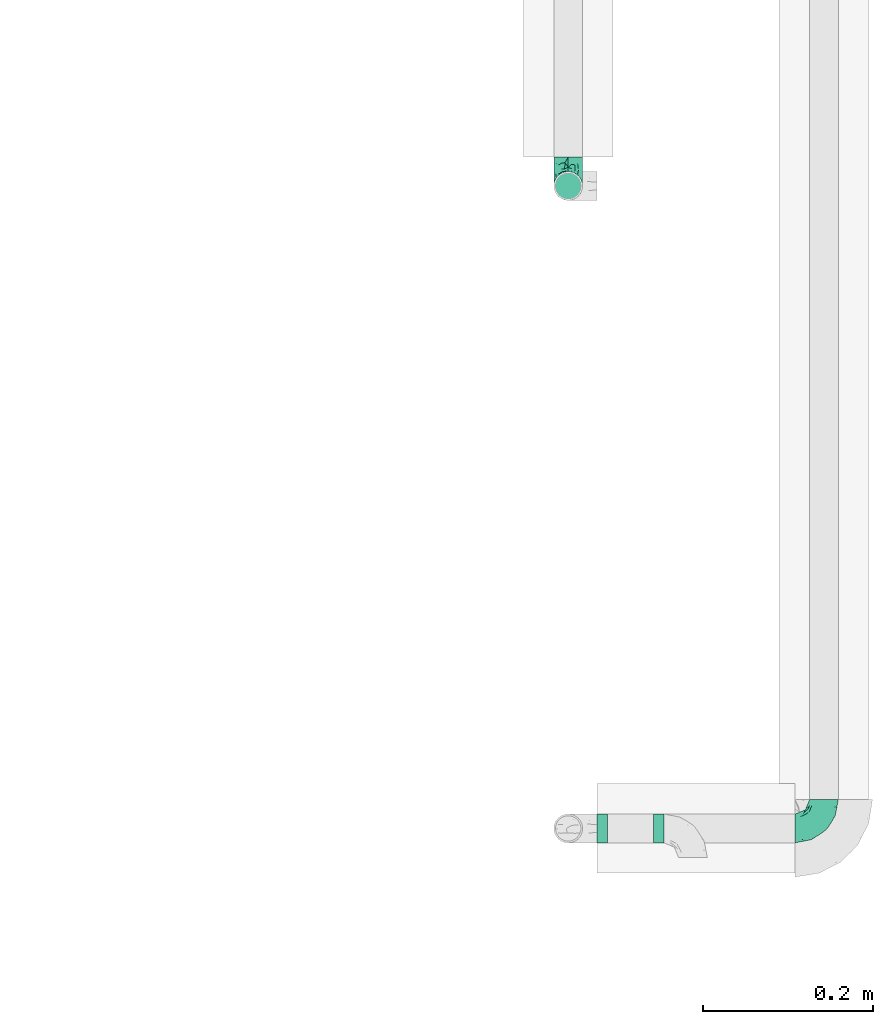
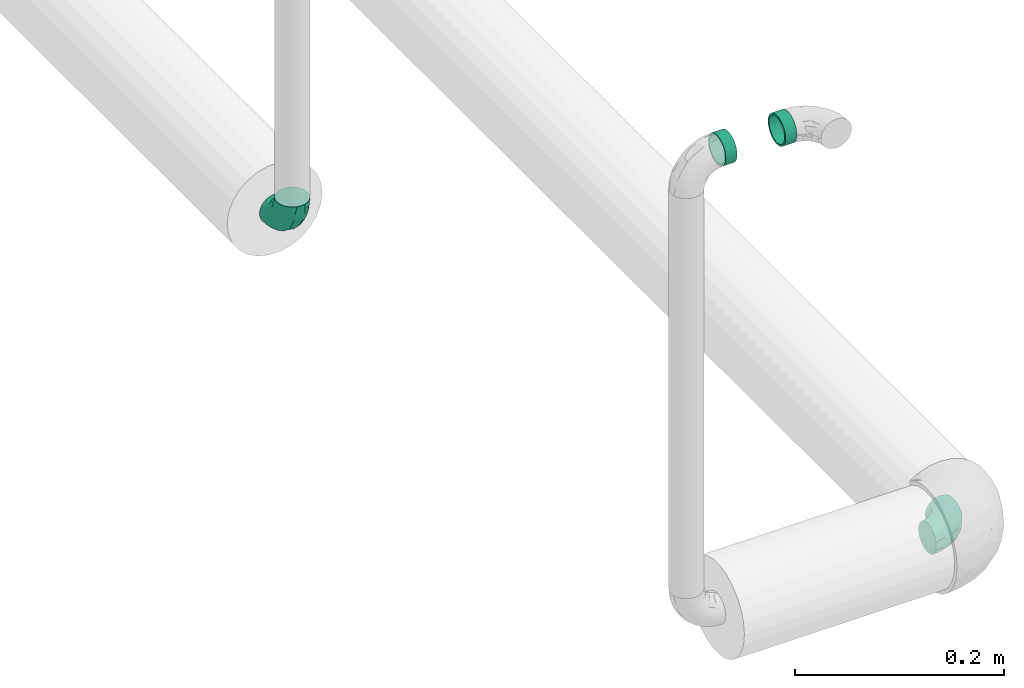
# One storey, part 11 of 17: 2 flow fittings, 2 flow segments.
"""IFC2X3 building model written with IfcOpenShell, lengths in millimetres."""

from ifc_helpers import new_model, entity, si_unit, converted_unit, derived_unit, direction, frame, origin_with_axes, origin_2d_with_axis, place, context, subcontext, project, spatial, hollow_circle, extrude, open_shell, surface_model, source, transform, mapped, type_object, element, save


model = new_model("IFC2X3")

# Units and contexts
model_context = context("Model", 3, precision=0.01, world=frame((0.0, 4.29681676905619e-09, 0.0)), true_north=direction((4.01073788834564e-13, 1.0)))
plan_context = context("Plan", 3, precision=0.01, world=frame((0.0, 4.29681676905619e-09, 0.0)), true_north=direction((4.01073788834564e-13, 1.0)))
body_context = subcontext(model_context, "Body", "Model", "MODEL_VIEW")
ifc_project = project(units=[converted_unit("PLANEANGLEUNIT", "DEGREE", entity("IfcPositiveLengthMeasure", 0.0174532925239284), si_unit("PLANEANGLEUNIT", "RADIAN"), dimensions=[0, 0, 0, 0, 0, 0, 0]), si_unit("AREAUNIT", "SQUARE_METRE"), si_unit("LENGTHUNIT", "METRE", prefix="MILLI"), si_unit("MASSUNIT", "GRAM", prefix="KILO"), si_unit("POWERUNIT", "WATT"), si_unit("PRESSUREUNIT", "PASCAL", prefix="KILO"), si_unit("FORCEUNIT", "NEWTON", prefix="KILO"), si_unit("ELECTRICVOLTAGEUNIT", "VOLT"), si_unit("ELECTRICCURRENTUNIT", "AMPERE"), si_unit("THERMODYNAMICTEMPERATUREUNIT", "DEGREE_CELSIUS"), si_unit("TIMEUNIT", "SECOND"), si_unit("VOLUMEUNIT", "CUBIC_METRE"), derived_unit("LINEARVELOCITYUNIT", [(si_unit("LENGTHUNIT", "METRE"), 1), (si_unit("TIMEUNIT", "SECOND"), -1)]), derived_unit("VOLUMETRICFLOWRATEUNIT", [(si_unit("VOLUMEUNIT", "CUBIC_METRE"), 1), (si_unit("TIMEUNIT", "SECOND"), -1)]), derived_unit("THERMALTRANSMITTANCEUNIT", [(si_unit("POWERUNIT", "WATT"), 1), (si_unit("THERMODYNAMICTEMPERATUREUNIT", "KELVIN"), -1), (si_unit("AREAUNIT", "SQUARE_METRE"), -1)]), derived_unit("SOUNDPRESSUREUNIT", [(si_unit("PRESSUREUNIT", "PASCAL"), 1)])], contexts=[model_context, plan_context])

# Site, building, storey
site_placement = place(None, frame((0.0, -4.29681676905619e-09, 0.0), z_axis=(0.0, 0.0, 1.0), x_axis=(1.0, 0.0, 0.0)))
site = spatial("IfcSite", under=ifc_project, at=site_placement, Name="ENGM", CompositionType="ELEMENT")
building_placement = place(site_placement, frame((0.0, 4.29681676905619e-09, 0.0), z_axis=(0.0, 0.0, 1.0), x_axis=(1.0, 0.0, 0.0)))
building = spatial("IfcBuilding", under=site, at=building_placement, Name="TI", CompositionType="ELEMENT")
storey_placement = place(building_placement, frame((0.0, 0.0, 207370.0), z_axis=(0.0, 0.0, 1.0), x_axis=(1.0, 0.0, 0.0)))
storey = spatial("IfcBuildingStorey", under=building, at=storey_placement, Name="Nivå E", CompositionType="ELEMENT", Elevation=207370.0)

# Flow fittings
pipe_fitting_type = type_object("IfcPipeFittingType", Name="magi_pipe_fe_elbow_short_001", PredefinedType="BEND")
shared_shape_1 = source(origin_with_axes(), body_context, "Body", "SurfaceModel", [
    surface_model("IfcShellBasedSurfaceModel", [(-33.8, 8.45, -14.63583), (-33.8, 4.37404, -16.32415), (-33.8, 11.9501, -11.9501), (-33.8, 16.32415, -4.37404), (-33.8, 14.63583, -8.45), (-33.8, -11.9501, -11.9501), (-33.8, -14.63583, -8.45), (-33.8, -8.45, -14.63583), (-33.8, 0.0, -16.9), (-33.8, -4.37404, -16.32415), (-33.8, -16.9, 0.0), (-33.8, -16.32415, 4.37404), (-33.8, -16.32415, -4.37404), (-33.8, 14.63583, 8.45), (-33.8, 16.32415, 4.37404), (-33.8, 11.9501, 11.9501), (-33.8, 4.37404, 16.32415), (-33.8, 8.45, 14.63583), (-33.8, -8.45, 14.63583), (-33.8, -14.63583, 8.45), (-33.8, -11.9501, 11.9501), (-33.8, -4.37404, 16.32415), (-33.8, 0.0, 16.9), (-33.8, 16.9, 0.0), (-11.9501, 33.8, -11.9501), (0.0, 33.8, -16.9), (-4.37404, 33.8, -16.32415), (-8.45, 33.8, -14.63583), (-14.63583, 33.8, -8.45), (-16.32415, 33.8, -4.37404), (8.45, 33.8, 14.63583), (16.32415, 33.8, -4.37404), (8.45, 33.8, -14.63583), (14.63583, 33.8, -8.45), (11.9501, 33.8, -11.9501), (4.37404, 33.8, -16.32415), (16.32415, 33.8, 4.37404), (16.9, 33.8, 0.0), (-11.9501, 33.8, 11.9501), (-16.32415, 33.8, 4.37404), (-14.63583, 33.8, 8.45), (11.9501, 33.8, 11.9501), (14.63583, 33.8, 8.45), (0.0, 33.8, 16.9), (4.37404, 33.8, 16.32415), (-16.9, 33.8, 0.0), (-24.79389, -13.12945, 9.48721), (-22.19287, -9.75018, 12.59315), (-24.09897, -14.97035, 0.0), (-14.93934, -10.76256, 8.5297), (-22.46095, -14.75051, 5.27077), (14.75051, 22.46094, 5.27077), (11.9251, 13.23888, 4.33236), (13.04069, 14.39795, 0.0), (7.71387, 13.68847, 11.55891), (9.75018, 22.19287, 12.59315), (4.10169, 13.0571, 14.04018), (-24.84007, -6.39063, 15.2048), (-25.81779, -2.23879, 16.61097), (-23.66549, 2.59054, 16.87119), (-26.50418, 14.06512, 11.08152), (-24.21253, 17.66365, 7.72657), (-29.58514, 15.86957, 7.00283), (-6.17382, -7.5455, 0.0), (-13.23888, -11.9251, 4.33236), (-14.39795, -13.04069, 0.0), (-17.81434, 18.87373, 11.97104), (-29.23923, 10.23435, 13.77053), (-1.45439, -2.85688, 7.61475), (-0.28326, 0.34872, 10.09509), (-5.74484, -4.04709, 10.4122), (-4.41137, 11.31918, 16.59407), (-8.39727, 3.10034, 15.7812), (-1.72649, 9.1306, 15.53089), (-17.39909, 24.75344, 7.64977), (-26.19233, 20.0512, 0.0), (-28.14518, 17.29657, 4.25857), (-26.05147, 6.6281, 15.96447), (-5.87354, 16.61944, 16.86968), (-12.51807, 12.51807, 16.48937), (-10.06312, 7.38516, 16.81295), (-3.01882, 3.01882, 13.81718), (-13.0571, -4.10169, 14.04018), (-16.82553, -0.15166, 16.38038), (10.76256, 14.93934, 8.5297), (13.12945, 24.79389, 9.48721), (6.39063, 24.84007, 15.2048), (-13.68847, -7.71387, 11.55891), (-10.67958, 26.17414, 14.008), (-12.78295, 18.26924, 15.06066), (-7.30894, 22.89991, 16.09489), (-13.88562, 22.45231, 12.93244), (-18.04944, 15.16501, 14.04434), (-23.11658, 20.08178, 4.02986), (-21.84989, 21.84989, 0.0), (-8.45, 33.8, 14.63583), (-18.55817, 25.48277, 3.93065), (-4.37404, 33.8, 16.32415), (-6.30846, 29.15138, 15.82987), (-13.95142, 26.94732, 11.03289), (-18.57098, 7.23906, 16.59756), (-16.58335, 4.14122, 16.89279), (-17.96666, 11.46709, 15.63151), (-9.84453, 17.54304, 16.18938), (-23.27207, 11.47201, 14.23154), (0.15166, 16.82553, 16.38038), (-8.0212, -7.54413, 7.93275), (1.00345, -2.19508, 4.57414), (5.13203, 3.01004, 5.90201), (5.24161, 1.7543, 2.53265), (8.70457, 7.04947, 3.99182), (-20.0512, 26.19233, 0.0), (-4.55488, -6.72064, 4.90681), (8.4852, 8.76699, 7.09296), (2.05031, -2.05031, 0.0), (7.5455, 6.17382, 0.0), (-26.75399, 2.1369, -16.845), (-14.61995, 24.73803, -11.27736), (-28.45274, -13.45335, -9.81895), (-26.00469, 6.63555, -15.96645), (-23.06726, 20.04573, -4.26202), (-13.80647, -4.26506, -14.17873), (-14.67501, -0.21081, -16.07388), (-6.7902, -0.2828, -13.8478), (-24.53586, 11.08096, -14.13417), (-26.72048, 14.00837, -11.05776), (10.0967, 24.44989, -12.75976), (5.83237, 21.40218, -15.03047), (6.66249, 28.54238, -15.38093), (-20.38182, 15.48705, -12.74596), (12.53268, 21.23441, -9.15363), (12.54494, 15.67504, -5.54878), (9.7522, 12.89279, -8.66343), (-15.65186, 19.64213, -13.01327), (-12.03528, 20.66498, -14.67665), (-15.61907, 15.61906, -14.83879), (-25.56551, -15.26206, 0.0), (-24.65452, -15.12934, -5.50955), (13.45335, 28.45274, -9.81895), (15.12934, 24.65452, -5.50955), (-7.35442, -8.31014, -5.65563), (-15.67504, -12.54494, -5.54878), (-24.44989, -10.0967, -12.75976), (0.16522, 0.41303, -9.71728), (-5.70658, -5.33066, -8.89288), (-5.13869, -2.37198, -11.53565), (-21.23441, -12.53268, -9.15363), (-24.89911, -2.13088, -16.591), (-28.54238, -6.66249, -15.38093), (-18.44386, -7.71663, -13.26957), (2.13088, 24.89911, -16.591), (-28.64342, 17.44413, -2.89318), (1.70017, -1.28722, -5.09504), (-16.57067, 26.81947, -7.36596), (-17.69055, 27.4263, -3.76405), (-12.89279, -9.7522, -8.66343), (-5.96611, 5.96611, -15.95814), (0.21081, 14.67501, -16.07388), (0.71146, 7.93863, -14.09382), (-20.53709, 20.09345, -8.28985), (-2.1369, 26.75399, -16.845), (-6.89872, 24.58781, -16.02578), (-10.60739, 26.53157, -13.98044), (-21.40218, -5.83237, -15.03047), (2.93192, 5.89627, -11.55917), (6.89393, 12.61842, -11.82233), (5.58056, 5.95325, -8.79455), (-3.99512, 18.61798, -16.89635), (8.31014, 7.35442, -5.65563), (-9.1383, 9.86148, -16.89041), (-9.99983, 16.02119, -16.39699), (-16.68576, 9.78031, -16.34199), (-27.01915, 16.61158, -7.12979), (15.26206, 25.56551, 0.0), (-18.61798, 3.99512, -16.89635), (-19.37495, 27.82495, 0.0), (-12.61842, -6.89393, -11.82233), (-18.84705, 19.14018, -10.96545), (-2.31621, 25.28, 16.85849), (3.84842, 5.86993, 10.70473), (3.49291, 14.42771, -14.76381), (2.23879, 25.81779, 16.61097), (14.97035, 24.09897, 0.0)], [open_shell([[[0, 1, 2]], [[3, 4, 2]], [[5, 6, 7]], [[8, 9, 7]], [[7, 6, 8]], [[10, 11, 12]], [[3, 13, 14]], [[3, 15, 13]], [[16, 17, 15]], [[16, 15, 18]], [[19, 20, 11]], [[20, 12, 11]], [[21, 22, 18]], [[20, 18, 12]], [[18, 22, 16]], [[3, 14, 23]], [[24, 25, 26]], [[24, 26, 27]], [[24, 28, 29]], [[30, 31, 24]], [[32, 33, 34]], [[32, 35, 25]], [[31, 33, 24]], [[31, 36, 37]], [[38, 24, 29]], [[39, 40, 29]], [[40, 38, 29]], [[38, 30, 24]], [[36, 41, 42]], [[36, 31, 41]], [[30, 43, 44]], [[31, 30, 41]], [[39, 29, 45]], [[20, 46, 47]], [[11, 10, 48]], [[49, 46, 50]], [[51, 52, 53]], [[46, 20, 19]], [[11, 50, 19]], [[54, 55, 56]], [[47, 18, 20]], [[47, 57, 18]], [[22, 58, 59]], [[60, 61, 62]], [[63, 64, 65]], [[55, 41, 30]], [[60, 66, 61]], [[17, 67, 15]], [[21, 58, 22]], [[68, 69, 70]], [[71, 72, 73]], [[15, 60, 13]], [[40, 39, 74]], [[75, 23, 76]], [[62, 14, 13]], [[22, 59, 16]], [[16, 77, 17]], [[78, 79, 80]], [[70, 81, 82]], [[57, 82, 83]], [[84, 85, 55]], [[86, 30, 44]], [[42, 51, 36]], [[52, 51, 84]], [[42, 85, 51]], [[87, 82, 47]], [[85, 42, 41]], [[18, 57, 21]], [[64, 50, 65]], [[88, 89, 90]], [[91, 92, 89]], [[75, 93, 94]], [[95, 38, 88]], [[96, 94, 93]], [[66, 74, 61]], [[97, 95, 98]], [[23, 14, 76]], [[88, 90, 98]], [[74, 96, 93]], [[38, 99, 88]], [[91, 88, 99]], [[11, 48, 50]], [[86, 55, 30]], [[55, 86, 56]], [[77, 16, 59]], [[100, 101, 80]], [[102, 77, 100]], [[38, 40, 99]], [[103, 89, 79]], [[90, 103, 78]], [[67, 60, 15]], [[60, 104, 92]], [[82, 57, 47]], [[65, 50, 48]], [[58, 57, 83]], [[87, 47, 49]], [[82, 81, 72]], [[105, 73, 56]], [[105, 56, 86]], [[106, 70, 87]], [[68, 70, 106]], [[64, 49, 50]], [[68, 107, 108]], [[109, 110, 108]], [[54, 84, 55]], [[50, 46, 19]], [[47, 46, 49]], [[55, 85, 41]], [[51, 85, 84]], [[100, 77, 59]], [[67, 77, 104]], [[14, 62, 76]], [[61, 74, 93]], [[45, 111, 96]], [[96, 111, 94]], [[40, 74, 99]], [[66, 99, 74]], [[91, 89, 88]], [[102, 92, 104]], [[100, 80, 79]], [[72, 80, 83]], [[78, 80, 71]], [[57, 58, 21]], [[59, 58, 83]], [[69, 81, 70]], [[100, 59, 101]], [[102, 100, 79]], [[89, 102, 79]], [[77, 102, 104]], [[89, 92, 102]], [[60, 92, 66]], [[59, 83, 101]], [[83, 80, 101]], [[82, 72, 83]], [[73, 72, 81]], [[56, 73, 81]], [[71, 73, 105]], [[78, 71, 105]], [[72, 71, 80]], [[77, 67, 17]], [[60, 67, 104]], [[88, 98, 95]], [[60, 62, 13]], [[76, 61, 93]], [[61, 76, 62]], [[76, 93, 75]], [[64, 63, 112]], [[106, 64, 112]], [[108, 110, 113]], [[114, 112, 63]], [[106, 87, 49]], [[108, 107, 109]], [[115, 53, 52]], [[70, 82, 87]], [[64, 106, 49]], [[68, 106, 112]], [[107, 68, 112]], [[112, 114, 107]], [[109, 107, 114]], [[114, 115, 109]], [[110, 115, 52]], [[115, 110, 109]], [[113, 52, 84]], [[52, 113, 110]], [[113, 84, 54]], [[108, 69, 68]], [[74, 39, 96]], [[45, 96, 39]], [[99, 66, 91]], [[91, 66, 92]], [[78, 103, 79]], [[90, 89, 103]], [[1, 116, 8]], [[28, 24, 117]], [[5, 118, 6]], [[0, 119, 1]], [[94, 120, 75]], [[121, 122, 123]], [[124, 2, 125]], [[126, 127, 128]], [[124, 125, 129]], [[130, 131, 132]], [[133, 134, 135]], [[124, 0, 2]], [[65, 136, 137]], [[130, 138, 139]], [[137, 12, 6]], [[140, 63, 141]], [[142, 5, 7]], [[143, 144, 145]], [[141, 137, 146]], [[147, 9, 8]], [[7, 148, 142]], [[146, 142, 149]], [[148, 7, 9]], [[139, 131, 130]], [[35, 150, 25]], [[23, 75, 151]], [[144, 152, 140]], [[153, 154, 29]], [[141, 155, 140]], [[156, 157, 158]], [[29, 28, 153]], [[117, 159, 153]], [[32, 34, 126]], [[25, 160, 26]], [[26, 160, 161]], [[138, 34, 33]], [[24, 27, 162]], [[120, 154, 159]], [[150, 35, 128]], [[148, 147, 163]], [[119, 0, 124]], [[164, 165, 166]], [[167, 150, 157]], [[26, 161, 27]], [[128, 35, 32]], [[138, 126, 34]], [[163, 147, 122]], [[132, 131, 168]], [[129, 133, 135]], [[2, 4, 125]], [[165, 127, 126]], [[33, 31, 139]], [[167, 169, 170]], [[171, 119, 124]], [[151, 172, 3]], [[131, 53, 115]], [[162, 27, 161]], [[170, 161, 167]], [[133, 162, 134]], [[118, 137, 6]], [[136, 10, 12]], [[31, 37, 173]], [[165, 126, 130]], [[157, 150, 127]], [[160, 150, 167]], [[157, 156, 169]], [[163, 121, 149]], [[118, 142, 146]], [[116, 147, 8]], [[174, 169, 122]], [[174, 122, 147]], [[122, 156, 123]], [[155, 141, 146]], [[136, 12, 137]], [[31, 173, 139]], [[53, 139, 173]], [[172, 125, 4]], [[124, 129, 135]], [[171, 124, 135]], [[116, 119, 174]], [[117, 153, 28]], [[154, 94, 175]], [[161, 170, 134]], [[117, 24, 162]], [[154, 45, 29]], [[75, 120, 151]], [[120, 159, 172]], [[154, 120, 94]], [[132, 166, 165]], [[123, 156, 158]], [[143, 166, 152]], [[144, 140, 155]], [[123, 158, 164]], [[123, 176, 121]], [[125, 172, 159]], [[4, 3, 172]], [[152, 63, 140]], [[65, 137, 141]], [[139, 53, 131]], [[131, 115, 168]], [[119, 116, 1]], [[147, 116, 174]], [[150, 160, 25]], [[161, 160, 167]], [[167, 157, 169]], [[171, 135, 170]], [[122, 169, 156]], [[171, 169, 174]], [[169, 171, 170]], [[119, 171, 174]], [[146, 176, 155]], [[123, 145, 176]], [[176, 144, 155]], [[152, 144, 143]], [[166, 132, 168]], [[165, 130, 132]], [[152, 166, 168]], [[166, 143, 164]], [[164, 143, 145]], [[158, 165, 164]], [[159, 177, 125]], [[177, 117, 133]], [[176, 145, 144]], [[164, 145, 123]], [[177, 133, 129]], [[162, 133, 117]], [[161, 134, 162]], [[170, 135, 134]], [[125, 177, 129]], [[117, 177, 159]], [[154, 153, 159]], [[45, 154, 175]], [[172, 151, 120]], [[23, 151, 3]], [[126, 128, 32]], [[150, 128, 127]], [[139, 138, 33]], [[126, 138, 130]], [[147, 148, 9]], [[142, 148, 163]], [[142, 118, 5]], [[137, 118, 146]], [[152, 115, 114]], [[65, 141, 63]], [[115, 152, 168]], [[152, 114, 63]], [[149, 121, 176]], [[122, 121, 163]], [[146, 149, 176]], [[163, 149, 142]], [[90, 78, 178]], [[56, 81, 179]], [[105, 178, 78]], [[158, 157, 180]], [[8, 6, 1]], [[97, 43, 95]], [[97, 98, 178]], [[178, 43, 97]], [[179, 108, 113]], [[178, 98, 90]], [[56, 179, 54]], [[113, 54, 179]], [[69, 108, 179]], [[81, 69, 179]], [[180, 165, 158]], [[157, 127, 180]], [[165, 180, 127]], [[30, 38, 95]], [[44, 43, 181]], [[6, 2, 1]], [[6, 18, 2]], [[6, 12, 18]], [[2, 18, 3]], [[15, 3, 18]], [[181, 178, 105]], [[181, 86, 44]], [[178, 181, 43]], [[86, 181, 105]], [[51, 53, 182]], [[182, 36, 51]], [[37, 36, 182]], [[25, 24, 32]], [[24, 33, 32]], [[95, 43, 30]]])]),
])
flow_fitting_1_placement = place(storey_placement, frame((598969.96633, 570723.24678, 2946.92527000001), z_axis=(0.0, 1.7999999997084e-05, 0.999999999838), x_axis=(1.0, 0.0, 0.0)))
element("IfcFlowFitting", 1, at=flow_fitting_1_placement, inside=storey, type_object=pipe_fitting_type, Name="magi_pipe_fe_elbow_short_001", context=body_context, shape_type="MappedRepresentation", body=[
    mapped(shared_shape_1, transform((0.0, 0.0, 0.0), scale=1.0)),
])
shared_shape_2 = source(origin_with_axes(), body_context, "Body", "SurfaceModel", [
    surface_model("IfcShellBasedSurfaceModel", [(-33.79946, 4.37404, -16.32415), (-33.79946, 0.0, -16.9), (-33.79946, 11.9501, -11.9501), (-33.79946, 8.45, -14.63583), (-33.79946, 16.32415, -4.37404), (-33.79946, 14.63583, -8.45), (-33.79946, -14.63583, -8.45), (-33.79946, -16.32415, -4.37404), (-33.79946, -8.45, 14.63583), (-33.79946, -11.9501, -11.9501), (-33.79946, -8.45, -14.63583), (-33.79946, -4.37404, -16.32415), (-33.79946, -16.9, 0.0), (-33.79946, -16.32415, 4.37404), (-33.79946, 11.9501, 11.9501), (-33.79946, 16.32415, 4.37404), (-33.79946, 14.63583, 8.45), (-33.79946, 4.37404, 16.32415), (-33.79946, 8.45, 14.63583), (-33.79946, -14.63583, 8.45), (-33.79946, -11.9501, 11.9501), (-33.79946, -4.37404, 16.32415), (-33.79946, 0.0, 16.9), (-33.79946, 16.9, 0.0), (0.00054, 33.79946, -16.9), (-4.3735, 33.79953, -16.32415), (-8.44946, 33.79959, -14.63583), (14.63637, 33.79922, -8.45), (-14.63529, 33.79969, -8.45), (-11.94956, 33.79965, -11.9501), (-14.63529, 33.79969, 8.45), (8.45054, 33.79932, -14.63583), (11.95065, 33.79927, -11.9501), (4.37458, 33.79939, -16.32415), (11.95065, 33.79927, 11.9501), (16.32469, 33.7992, -4.37404), (16.32469, 33.7992, 4.37404), (16.90054, 33.79919, 0.0), (-16.89946, 33.79973, 0.0), (-16.3236, 33.79972, -4.37404), (-16.3236, 33.79972, 4.37404), (8.45054, 33.79932, 14.63583), (-8.44946, 33.79959, 14.63583), (-11.94956, 33.79965, 11.9501), (-4.3735, 33.79953, 16.32415), (14.63637, 33.79922, 8.45), (0.00054, 33.79946, 16.9), (4.37458, 33.79939, 16.32415), (-24.79332, -13.12945, 9.48721), (-22.19231, -9.75017, 12.59315), (-24.09853, -14.97039, 0.0), (-14.93875, -10.76253, 8.52971), (-22.46038, -14.7505, 5.27078), (14.75086, 22.46015, 5.27078), (11.92529, 13.23809, 4.33235), (13.041, 14.39739, 0.0), (7.71408, 13.68782, 11.55892), (9.75053, 22.19215, 12.59315), (4.10197, 13.05667, 14.0402), (-24.83954, -6.39062, 15.20481), (-25.81734, -2.23879, 16.61097), (-23.66501, 2.59054, 16.87119), (-26.50367, 14.06512, 11.08151), (-24.21208, 17.66361, 7.72654), (-29.58466, 15.86957, 7.00282), (-6.17351, -7.54569, 0.0), (-13.23828, -11.92507, 4.33235), (-14.3976, -13.04077, 0.0), (-17.81402, 18.87353, 11.97101), (-6.308, 29.15102, 15.82986), (-2.31581, 25.27955, 16.85849), (-29.23878, 10.23435, 13.77051), (-1.4539, -2.8568, 7.61492), (-0.28309, 0.3485, 10.09524), (-5.74452, -4.04716, 10.41229), (-4.41109, 11.31882, 16.59407), (-8.3969, 3.10031, 15.78123), (-1.72612, 9.13038, 15.5309), (-17.39865, 24.75328, 7.64975), (-26.19177, 20.05117, 0.0), (-28.14467, 17.29656, 4.25858), (-26.05095, 6.62811, 15.96447), (-5.87326, 16.6192, 16.86967), (-12.51774, 12.51794, 16.48935), (-10.06287, 7.38503, 16.81296), (-3.01857, 3.01862, 13.81723), (-13.05674, -4.10176, 14.0402), (-16.82516, -0.1517, 16.38039), (10.76277, 14.93858, 8.52971), (13.12984, 24.7931, 9.48721), (6.39102, 24.83943, 15.20481), (2.2392, 25.81731, 16.61097), (-13.68795, -7.71386, 11.55892), (14.97077, 24.09829, 0.0), (-7.30855, 22.89962, 16.09488), (-10.67916, 26.17381, 14.00799), (-12.78253, 18.26905, 15.06066), (-13.88525, 22.45203, 12.93243), (-18.04902, 15.1649, 14.04434), (-23.1161, 20.08173, 4.02985), (-21.84945, 21.8498, 0.0), (-18.55768, 25.48269, 3.93063), (-13.95099, 26.94701, 11.03288), (-18.57057, 7.239, 16.59756), (-16.58299, 4.1412, 16.89279), (-17.96634, 11.46697, 15.6315), (-9.84416, 17.54283, 16.18937), (0.15197, 16.82515, 16.38039), (-23.27168, 11.47197, 14.23152), (3.84871, 5.86948, 10.70464), (-8.02067, -7.54409, 7.93282), (1.00374, -2.19518, 4.5745), (5.13257, 3.00989, 5.90176), (5.24124, 1.7532, 2.53273), (8.70481, 7.04871, 3.99119), (-20.05075, 26.19209, 0.0), (8.48605, 8.76689, 7.09228), (-4.55425, -6.72053, 4.90695), (2.05057, -2.0506, 0.0), (7.54578, 6.17339, 0.0), (-26.75354, 2.1369, -16.84499), (-14.61951, 24.73785, -11.27734), (-28.45223, -13.45334, -9.81896), (-26.00418, 6.63555, -15.96645), (-23.06679, 20.04568, -4.26201), (-13.80618, -4.26522, -14.17871), (-14.67463, -0.21089, -16.07388), (-6.79008, -0.28298, -13.84788), (-24.53543, 11.08094, -14.13415), (-26.71996, 14.00837, -11.05775), (10.09709, 24.44921, -12.75976), (5.83271, 21.4016, -15.03047), (6.66295, 28.54176, -15.38093), (-20.38141, 15.48695, -12.74596), (12.53303, 21.23372, -9.15365), (12.54518, 15.67429, -5.5488), (9.75234, 12.89203, -8.6635), (-15.65146, 19.642, -13.01325), (-12.03495, 20.66475, -14.67661), (-15.6187, 15.61895, -14.83877), (-25.56497, -15.26207, 0.0), (-24.654, -15.12934, -5.50956), (13.4538, 28.45202, -9.81896), (15.12973, 24.65375, -5.50956), (-7.35384, -8.31012, -5.65562), (-15.6745, -12.54493, -5.5488), (-24.44937, -10.0967, -12.75976), (0.16527, 0.41258, -9.71733), (-5.70616, -5.33082, -8.89278), (-5.13887, -2.37249, -11.53571), (-21.23393, -12.53269, -9.15365), (0.71166, 7.93824, -14.09385), (0.21113, 14.67462, -16.07388), (3.49317, 14.42724, -14.76382), (-24.89859, -2.13088, -16.591), (-28.54187, -6.66249, -15.38093), (-18.44338, -7.71671, -13.26953), (2.13127, 24.89855, -16.591), (-28.64292, 17.44411, -2.89316), (1.70006, -1.28787, -5.09508), (-16.5702, 26.81933, -7.36593), (-17.6901, 27.42606, -3.76404), (-12.89219, -9.75213, -8.6635), (-5.96583, 5.96593, -15.95816), (-20.53659, 20.09343, -8.28982), (-2.13647, 26.75357, -16.84499), (-6.89832, 24.58744, -16.02578), (-10.60697, 26.53122, -13.98043), (-21.40169, -5.83237, -15.03047), (2.93217, 5.89583, -11.55914), (6.89417, 12.61788, -11.82236), (5.58065, 5.95257, -8.79452), (-3.99478, 18.61765, -16.89635), (8.31024, 7.35371, -5.65562), (-9.138, 9.86127, -16.89041), (-9.99954, 16.02087, -16.39699), (-16.6856, 9.78017, -16.34196), (-27.01865, 16.61156, -7.1298), (15.26249, 25.56472, 0.0), (-18.61759, 3.99508, -16.89635), (-19.37445, 27.82476, 0.0), (-12.61799, -6.89396, -11.82236), (-18.84667, 19.14003, -10.96544)], [open_shell([[[0, 1, 2]], [[3, 0, 2]], [[4, 5, 2]], [[6, 2, 1]], [[2, 7, 8]], [[9, 6, 10]], [[1, 11, 10]], [[1, 10, 6]], [[6, 7, 2]], [[12, 13, 7]], [[4, 2, 14]], [[14, 15, 4]], [[16, 15, 14]], [[17, 18, 14]], [[2, 8, 14]], [[17, 14, 8]], [[19, 20, 13]], [[13, 20, 7]], [[21, 22, 8]], [[20, 8, 7]], [[8, 22, 17]], [[23, 4, 15]], [[24, 25, 26]], [[27, 24, 26]], [[27, 26, 28]], [[28, 26, 29]], [[28, 30, 27]], [[31, 27, 32]], [[31, 33, 24]], [[27, 31, 24]], [[27, 34, 35]], [[35, 36, 37]], [[38, 28, 39]], [[38, 40, 30]], [[27, 30, 41]], [[30, 42, 41]], [[42, 30, 43]], [[44, 41, 42]], [[35, 45, 36]], [[34, 45, 35]], [[41, 46, 47]], [[27, 41, 34]], [[44, 46, 41]], [[38, 30, 28]], [[20, 48, 49]], [[13, 12, 50]], [[51, 48, 52]], [[53, 54, 55]], [[48, 20, 19]], [[13, 52, 19]], [[56, 57, 58]], [[49, 8, 20]], [[49, 59, 8]], [[22, 60, 61]], [[62, 63, 64]], [[65, 66, 67]], [[57, 34, 41]], [[62, 68, 63]], [[44, 69, 70]], [[18, 71, 14]], [[21, 60, 22]], [[72, 73, 74]], [[75, 76, 77]], [[14, 62, 16]], [[30, 40, 78]], [[79, 23, 80]], [[64, 15, 16]], [[22, 61, 17]], [[17, 81, 18]], [[82, 83, 84]], [[74, 85, 86]], [[59, 86, 87]], [[88, 89, 57]], [[90, 41, 47]], [[45, 53, 36]], [[47, 46, 91]], [[54, 53, 88]], [[45, 89, 53]], [[92, 86, 49]], [[89, 45, 34]], [[8, 59, 21]], [[53, 55, 93]], [[93, 36, 53]], [[66, 52, 67]], [[94, 82, 70]], [[95, 96, 94]], [[97, 98, 96]], [[79, 99, 100]], [[42, 43, 95]], [[101, 100, 99]], [[68, 78, 63]], [[44, 42, 69]], [[23, 15, 80]], [[95, 94, 69]], [[78, 101, 99]], [[43, 102, 95]], [[70, 46, 44]], [[97, 95, 102]], [[13, 50, 52]], [[90, 57, 41]], [[57, 90, 58]], [[81, 17, 61]], [[103, 104, 84]], [[105, 81, 103]], [[43, 30, 102]], [[106, 96, 83]], [[94, 106, 82]], [[91, 70, 107]], [[71, 62, 14]], [[62, 108, 98]], [[86, 59, 49]], [[67, 52, 50]], [[60, 59, 87]], [[92, 49, 51]], [[86, 85, 76]], [[91, 90, 47]], [[37, 36, 93]], [[107, 77, 58]], [[107, 58, 90]], [[58, 85, 109]], [[110, 74, 92]], [[72, 74, 110]], [[66, 51, 52]], [[72, 111, 112]], [[113, 114, 112]], [[56, 88, 57]], [[52, 48, 19]], [[49, 48, 51]], [[57, 89, 34]], [[53, 89, 88]], [[103, 81, 61]], [[71, 81, 108]], [[15, 64, 80]], [[63, 78, 99]], [[38, 115, 101]], [[101, 115, 100]], [[30, 78, 102]], [[68, 102, 78]], [[97, 96, 95]], [[105, 98, 108]], [[103, 84, 83]], [[107, 70, 82]], [[76, 84, 87]], [[82, 84, 75]], [[70, 91, 46]], [[90, 91, 107]], [[59, 60, 21]], [[61, 60, 87]], [[73, 85, 74]], [[109, 112, 116]], [[103, 61, 104]], [[105, 103, 83]], [[96, 105, 83]], [[81, 105, 108]], [[96, 98, 105]], [[62, 98, 68]], [[61, 87, 104]], [[87, 84, 104]], [[86, 76, 87]], [[77, 76, 85]], [[58, 77, 85]], [[75, 77, 107]], [[82, 75, 107]], [[76, 75, 84]], [[81, 71, 18]], [[62, 71, 108]], [[95, 69, 42]], [[70, 69, 94]], [[62, 64, 16]], [[80, 63, 99]], [[63, 80, 64]], [[80, 99, 79]], [[66, 65, 117]], [[110, 66, 117]], [[112, 114, 116]], [[118, 117, 65]], [[110, 92, 51]], [[112, 111, 113]], [[119, 55, 54]], [[74, 86, 92]], [[58, 109, 56]], [[116, 56, 109]], [[66, 110, 51]], [[72, 110, 117]], [[111, 72, 117]], [[73, 112, 109]], [[117, 118, 111]], [[113, 111, 118]], [[118, 119, 113]], [[114, 119, 54]], [[119, 114, 113]], [[116, 54, 88]], [[54, 116, 114]], [[116, 88, 56]], [[112, 73, 72]], [[85, 73, 109]], [[78, 40, 101]], [[38, 101, 40]], [[102, 68, 97]], [[97, 68, 98]], [[82, 106, 83]], [[94, 96, 106]], [[0, 120, 1]], [[28, 29, 121]], [[9, 122, 6]], [[3, 123, 0]], [[100, 124, 79]], [[125, 126, 127]], [[128, 2, 129]], [[130, 131, 132]], [[128, 129, 133]], [[134, 135, 136]], [[137, 138, 139]], [[128, 3, 2]], [[67, 140, 141]], [[134, 142, 143]], [[141, 7, 6]], [[144, 65, 145]], [[146, 9, 10]], [[147, 148, 149]], [[145, 141, 150]], [[151, 152, 153]], [[154, 11, 1]], [[10, 155, 146]], [[150, 146, 156]], [[155, 10, 11]], [[143, 135, 134]], [[33, 157, 24]], [[23, 79, 158]], [[148, 159, 144]], [[160, 161, 39]], [[145, 162, 144]], [[163, 152, 151]], [[39, 28, 160]], [[121, 164, 160]], [[31, 32, 130]], [[24, 165, 25]], [[25, 165, 166]], [[142, 32, 27]], [[29, 26, 167]], [[124, 161, 164]], [[157, 33, 132]], [[155, 154, 168]], [[123, 3, 128]], [[169, 170, 171]], [[172, 157, 152]], [[25, 166, 26]], [[132, 33, 31]], [[142, 130, 32]], [[168, 154, 126]], [[136, 135, 173]], [[133, 137, 139]], [[2, 5, 129]], [[170, 131, 130]], [[27, 35, 143]], [[172, 174, 175]], [[176, 123, 128]], [[158, 177, 4]], [[135, 55, 119]], [[167, 26, 166]], [[175, 166, 172]], [[137, 167, 138]], [[122, 141, 6]], [[140, 12, 7]], [[35, 37, 178]], [[170, 130, 134]], [[152, 157, 131]], [[165, 157, 172]], [[153, 170, 151]], [[152, 163, 174]], [[168, 125, 156]], [[122, 146, 150]], [[120, 154, 1]], [[179, 174, 126]], [[179, 126, 154]], [[126, 163, 127]], [[162, 145, 150]], [[140, 7, 141]], [[35, 178, 143]], [[55, 143, 178]], [[177, 129, 5]], [[128, 133, 139]], [[176, 128, 139]], [[120, 123, 179]], [[121, 160, 28]], [[161, 100, 180]], [[166, 175, 138]], [[121, 29, 167]], [[161, 38, 39]], [[79, 124, 158]], [[124, 164, 177]], [[161, 124, 100]], [[136, 171, 170]], [[127, 163, 151]], [[147, 171, 159]], [[148, 144, 162]], [[127, 151, 169]], [[127, 181, 125]], [[129, 177, 164]], [[5, 4, 177]], [[159, 65, 144]], [[67, 141, 145]], [[143, 55, 135]], [[135, 119, 173]], [[123, 120, 0]], [[154, 120, 179]], [[157, 165, 24]], [[166, 165, 172]], [[172, 152, 174]], [[176, 139, 175]], [[126, 174, 163]], [[176, 174, 179]], [[174, 176, 175]], [[123, 176, 179]], [[150, 181, 162]], [[127, 149, 181]], [[181, 148, 162]], [[159, 148, 147]], [[171, 136, 173]], [[170, 134, 136]], [[159, 171, 173]], [[171, 147, 169]], [[169, 147, 149]], [[151, 170, 169]], [[164, 182, 129]], [[182, 121, 137]], [[181, 149, 148]], [[169, 149, 127]], [[182, 137, 133]], [[167, 137, 121]], [[166, 138, 167]], [[175, 139, 138]], [[129, 182, 133]], [[121, 182, 164]], [[161, 160, 164]], [[38, 161, 180]], [[177, 158, 124]], [[23, 158, 4]], [[130, 132, 31]], [[157, 132, 131]], [[143, 142, 27]], [[130, 142, 134]], [[154, 155, 11]], [[146, 155, 168]], [[146, 122, 9]], [[141, 122, 150]], [[152, 131, 153]], [[159, 119, 118]], [[67, 145, 65]], [[170, 153, 131]], [[119, 159, 173]], [[159, 118, 65]], [[156, 125, 181]], [[126, 125, 168]], [[150, 156, 181]], [[168, 156, 146]]])]),
])
flow_fitting_2_placement = place(storey_placement, frame((598669.97776, 571476.94106, 2946.91222), z_axis=(1.0, 0.0, 0.0), x_axis=(0.0, 0.0, -1.0)))
element("IfcFlowFitting", 2, at=flow_fitting_2_placement, inside=storey, type_object=pipe_fitting_type, Name="magi_pipe_fe_elbow_short_001", context=body_context, shape_type="MappedRepresentation", body=[
    mapped(shared_shape_2, transform((0.0, 0.0, 0.0), scale=1.0)),
])

# Flow segments
pipe_segment_type = type_object("IfcPipeSegmentType", Name="Stålrør normaltykke", PredefinedType="RIGIDSEGMENT")
shared_shape_3 = source(origin_with_axes(), body_context, "Body", "SweptSolid", [
    extrude(hollow_circle(Radius=16.9, WallThickness=2.0, at=origin_2d_with_axis()), frame((0.0, 0.0, 0.0), z_axis=(1.0, 0.0, 0.0), x_axis=(0.0, 1.0, 0.0)), (0.0, 0.0, 1.0), 12.5),
])
for number, where, z_axis, x_axis in (
    (3, (598769.87776, 570723.24678, 3481.39999999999), (0.0, 0.0, 1.0), (1.0, 0.0, 0.0)),
    (4, (598703.77776, 570723.24678, 3481.39999999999), (0.0, 0.0, 1.0), (1.0, 0.0, 0.0)),
):
    element("IfcFlowSegment", number, at=place(storey_placement, frame(where, z_axis=z_axis, x_axis=x_axis)), inside=storey, type_object=pipe_segment_type, Name="Stålrør normaltykke", context=body_context, shape_type="MappedRepresentation", body=[
        mapped(shared_shape_3, transform((0.0, 0.0, 0.0), scale=1.0)),
    ])

save(model, "model.ifc")
